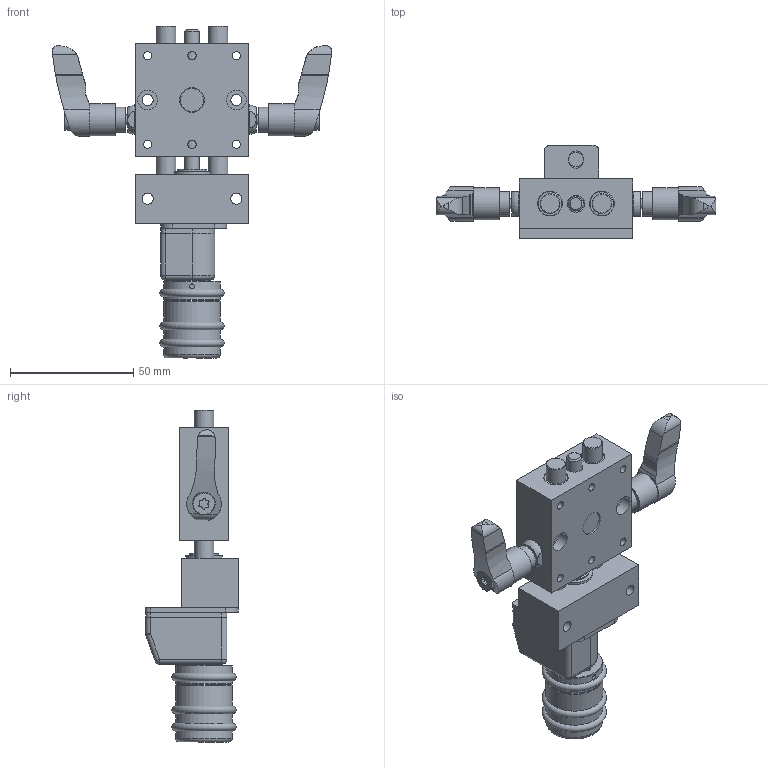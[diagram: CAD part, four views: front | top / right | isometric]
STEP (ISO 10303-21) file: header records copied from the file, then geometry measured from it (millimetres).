
FILE_DESCRIPTION (( 'STEP AP214' ), '1' );
FILE_NAME ('PT1408-PA-2KH-Positioniertisch.STEP', '2023-11-20T15:52:43', ( '' ), ( '' ), 'SwSTEP 2.0', 'SolidWorks 2019', '' );
FILE_SCHEMA (( 'AUTOMOTIVE_DESIGN' ));
Length unit declared in the file: millimetre
Products named in the file (4): PT1408-PA-2KH-Positioniertisch; PA0812-PTHT-000-Positionsanzeiger-komplett_n_Standard; PT08-000-22-Schlitten-komplett-2KH; PT1408-000-01-Festteil-PA(E)
Assembly tree (3 placements, depth 2):
  PT1408-PA-2KH-Positioniertisch
    PT1408-000-01-Festteil-PA(E)
    PA0812-PTHT-000-Positionsanzeiger-komplett_n_Standard
    PT08-000-22-Schlitten-komplett-2KH
Bounding box: 113.34 x 37.7 x 134.53 mm (x, y, z)
Volume: 95437.6 mm3; surface area: 41320.8 mm2
Topology: 5 solids, 7 shells, 430 faces, 1024 edges, 669 vertices
Faces by surface type: cylinder 186, plane 173, cone 47, torus 12, bspline 6, sphere 6
Full cylindrical faces by diameter (mm): 2 x1, 2.05 x2, 2.5 x2, 2.7 x2, 3.3 x9, 4 x4, 4.5 x4, 5 x3, 5.6 x1, 6 x3, 6.25 x1, 6.4 x2, 6.6 x2, 7 x5, 7.6 x2, 7.8 x1, 8 x14, 8.6 x4, 9.5 x1, 9.7 x2, 9.98 x6, 10 x6, 10.5 x2, 11.5 x1, 12 x3, 13 x2, 13.8 x1, 15 x1, 16 x1, 20 x1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
Entity records: 14016 total; most frequent: CARTESIAN_POINT 4645, DIRECTION 1909, ORIENTED_EDGE 1624, EDGE_CURVE 812, AXIS2_PLACEMENT_3D 786, EDGE_LOOP 691, VERTEX_POINT 605, FACE_OUTER_BOUND 532
